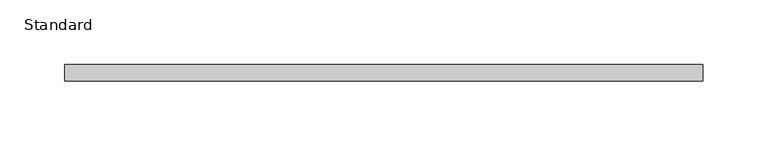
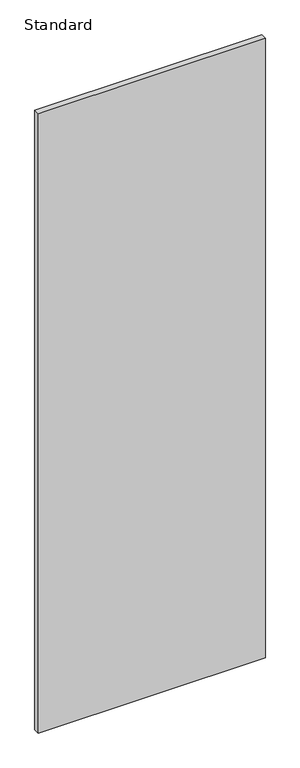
"""IFC4 building model written with IfcOpenShell, lengths in millimetres: furniture geometry, X_Locker-Duracube-Door : Standard."""

from ifc_helpers import new_model, si_unit, frame, origin, place, context, project, spatial, polyline, outline, extrude, source, transform, mapped, element, save


def standard_86fa131c(model_context):
    return source(origin(), model_context, "Body", "SweptSolid", [
        extrude(outline(polyline([(291.7003264, -13.0), (-202.2996736, -13.0), (-202.2996736, 0.0), (291.7003264, 0.0), (291.7003264, -13.0)])), frame((0.0, 0.0, 3.0), z_axis=(0.0, 0.0, 1.0), x_axis=(1.0, 0.0, 0.0)), (0.0, 0.0, 1.0), 1424.0),
    ])


if __name__ == "__main__":
    model = new_model("IFC4")
    model_context = context("Model", 3, world=origin())
    ifc_project = project(units=[si_unit("LENGTHUNIT", "METRE", prefix="MILLI")], contexts=[model_context])
    site = spatial("IfcSite", under=ifc_project)
    building = spatial("IfcBuilding", under=site)
    placement = place(None, origin())
    standard_shape = standard_86fa131c(model_context)
    element("IfcFurniture", 1, ObjectType="X_Locker-Duracube-Door : Standard", at=placement, inside=building, context=model_context, shape_type="MappedRepresentation", body=[
        mapped(standard_shape, transform((0.0, 0.0, 0.0), x_axis=(1.0, 0.0, 0.0), y_axis=(0.0, 1.0, 0.0), z_axis=(0.0, 0.0, 1.0))),
    ])
    save(model, "model.ifc")
